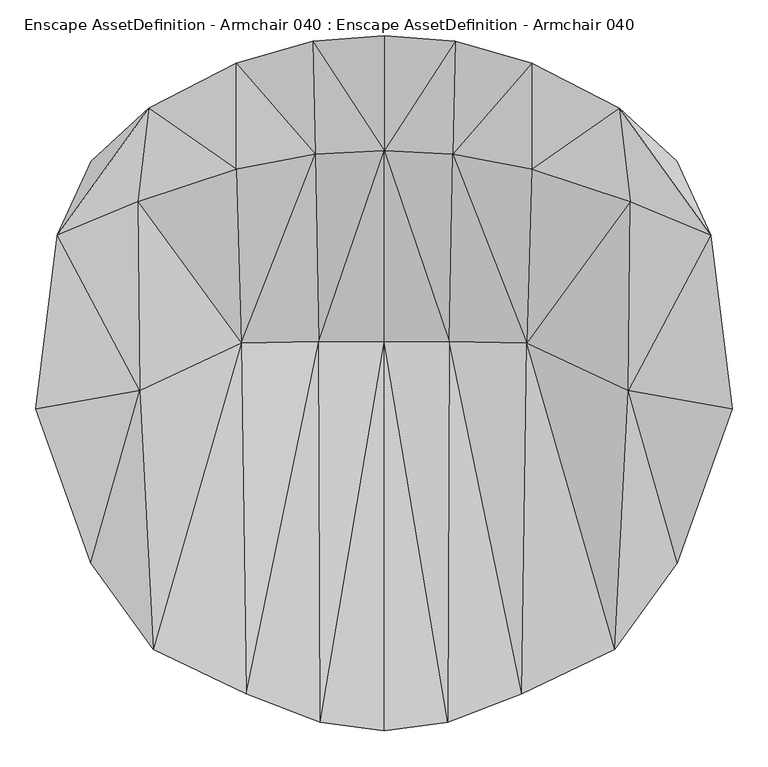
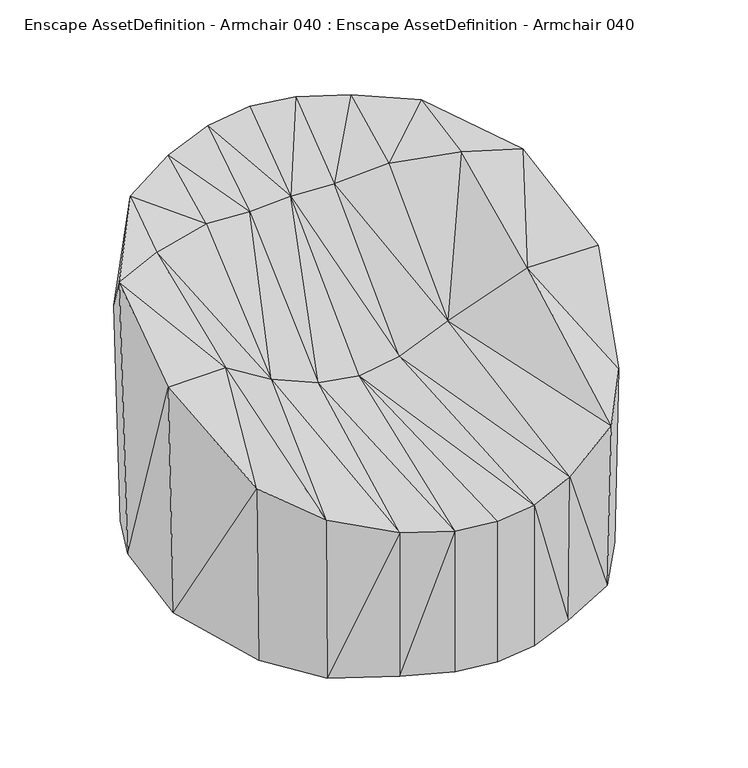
"""IFC4 building model written with IfcOpenShell, lengths in millimetres: geographic element geometry, Enscape AssetDefinition - Armchair 040 : Enscape AssetDefinition - Armchair 040."""

from ifc_helpers import new_model, si_unit, origin, place, context, project, spatial, triangles, source, transform, mapped, element, save


def enscape_assetdefinition_armchair_040_enscape_assetdefinition_4bf14610(model_context):
    return source(origin(), model_context, "Body", "Tessellation", [
        triangles([(91.112916, 58.2758806, 367.5471874), (88.9387846, -471.6473376, 334.5366297), (191.4430384, -432.0617452, 343.068449), (190.0643616, -429.7259866, 0.0), (315.5635872, -364.6123375, 0.0), (198.8997235, 55.9817437, 415.6219783), (321.0792389, -370.2499658, 380.9013868), (339.8429918, -9.9839166, 531.7958101), (454.3832388, 206.2036926, 644.4932917), (407.6564398, -249.6673551, 413.6114542), (441.7560662, 195.5591934, 0.0), (484.190213, -35.6737082, 551.3807702), (342.8542179, 252.7480355, 648.3505417), (327.32784, 382.6044079, 698.2493128), (191.9191358, 427.7819555, 0.0), (407.4005324, 308.8636691, 511.6871538), (205.5193231, 445.2830675, 714.5611805), (397.8659037, 300.102685, 0.0), (464.153936, -21.9297048, 0.0), (-90.6070694, 456.3054325, 0.0), (314.6401697, 368.2791558, 0.0), (95.6129139, 319.2601639, 618.7250971), (98.9504645, 476.0630565, 729.4537308), (205.2296968, 298.2925847, 640.6984652), (0.0, 462.8208778, 0.0), (0.0, 483.4780835, 736.8787863), (90.6070694, 456.3054325, 0.0), (-98.9504645, 476.0630565, 729.4537308), (-205.5193231, 445.2830675, 714.5611805), (-205.2296968, 298.2925847, 640.6984652), (-91.112916, 58.2758806, 367.5471874), (-95.6129139, 319.2601639, 618.7250971), (-198.8997235, 55.9817437, 415.6219783), (0.0, 323.6004876, 618.7250971), (-191.4430384, -432.0617452, 343.068449), (-315.5635872, -364.6123375, 0.0), (0.0, 57.581587, 352.5881804), (0.0, -483.4780835, 335.2398208), (-88.9387846, -471.6473376, 334.5366297), (-190.0643616, -429.7259866, 0.0), (-88.9387846, -470.8171557, 0.0), (88.9387846, -470.8171557, 0.0), (0.0, -482.9513715, 0.0), (400.8920634, -245.9062656, 0.0), (-314.6401697, 368.2791558, 0.0), (-191.9191358, 427.7819555, 0.0), (-397.8659037, 300.102685, 0.0), (-441.7560662, 195.5591934, 0.0), (-407.4005324, 308.8636691, 511.6871538), (-454.3832388, 206.2036926, 644.4932917), (-327.32784, 382.6044079, 698.2493128), (-342.8542179, 252.7480355, 648.3505417), (-484.190213, -35.6737082, 551.3807702), (-339.8429918, -9.9839166, 531.7958101), (-464.153936, -21.9297048, 0.0), (-407.6564398, -249.6673551, 413.6114542), (-400.8920634, -245.9062656, 0.0), (-321.0792389, -370.2499658, 380.9013868)], [[40, 57, 48], [57, 55, 48], [40, 36, 57], [57, 36, 58], [55, 57, 56], [57, 58, 56], [55, 56, 53], [53, 48, 55], [56, 58, 54], [56, 54, 53], [54, 52, 50], [53, 50, 48], [54, 50, 53], [50, 52, 51], [48, 50, 49], [50, 51, 49], [48, 49, 47], [48, 47, 45], [49, 51, 45], [46, 45, 51], [49, 45, 47], [40, 48, 20], [48, 45, 20], [45, 46, 20], [40, 20, 44], [44, 4, 40], [4, 43, 40], [43, 41, 40], [4, 42, 43], [43, 42, 2], [4, 2, 42], [34, 37, 1], [37, 2, 1], [37, 38, 2], [43, 2, 38], [39, 41, 43], [40, 41, 39], [39, 43, 38], [37, 39, 38], [35, 58, 36], [35, 36, 40], [40, 39, 35], [37, 31, 39], [35, 39, 31], [34, 31, 37], [52, 54, 33], [33, 54, 58], [33, 58, 35], [35, 31, 33], [51, 52, 30], [52, 33, 30], [33, 31, 32], [34, 32, 31], [33, 32, 30], [32, 29, 30], [29, 20, 46], [51, 30, 29], [46, 51, 29], [32, 28, 29], [28, 32, 34], [29, 28, 20], [28, 34, 26], [25, 20, 28], [25, 28, 26], [20, 25, 27], [25, 26, 23], [34, 23, 26], [25, 23, 27], [34, 22, 23], [6, 22, 1], [34, 1, 22], [6, 24, 22], [17, 23, 22], [17, 22, 24], [17, 27, 23], [17, 15, 27], [20, 21, 44], [20, 27, 21], [27, 15, 21], [21, 11, 44], [11, 19, 44], [21, 18, 11], [16, 18, 21], [16, 11, 18], [15, 17, 14], [24, 14, 17], [16, 21, 14], [15, 14, 21], [24, 13, 14], [6, 13, 24], [16, 9, 11], [9, 16, 14], [9, 14, 13], [12, 19, 11], [12, 11, 9], [19, 12, 10], [19, 10, 44], [9, 13, 8], [6, 8, 13], [10, 12, 8], [9, 8, 12], [44, 10, 7], [10, 8, 7], [6, 7, 8], [44, 5, 4], [44, 7, 5], [3, 4, 5], [6, 3, 7], [4, 3, 2], [3, 6, 1], [3, 5, 7], [3, 1, 2]]),
    ])


if __name__ == "__main__":
    model = new_model("IFC4")
    model_context = context("Model", 3, world=origin())
    ifc_project = project(units=[si_unit("LENGTHUNIT", "METRE", prefix="MILLI")], contexts=[model_context])
    site = spatial("IfcSite", under=ifc_project)
    building = spatial("IfcBuilding", under=site)
    placement = place(None, origin())
    enscape_assetdefinition_armchair_040_enscape_assetdefinition_shape = enscape_assetdefinition_armchair_040_enscape_assetdefinition_4bf14610(model_context)
    element("IfcGeographicElement", 1, ObjectType="Enscape AssetDefinition - Armchair 040 : Enscape AssetDefinition - Armchair 040", at=placement, inside=building, context=model_context, shape_type="MappedRepresentation", body=[
        mapped(enscape_assetdefinition_armchair_040_enscape_assetdefinition_shape, transform((0.0, 0.0, 0.0), x_axis=(1.0, 0.0, 0.0), y_axis=(0.0, 1.0, 0.0), z_axis=(0.0, 0.0, 1.0))),
    ])
    save(model, "model.ifc")
